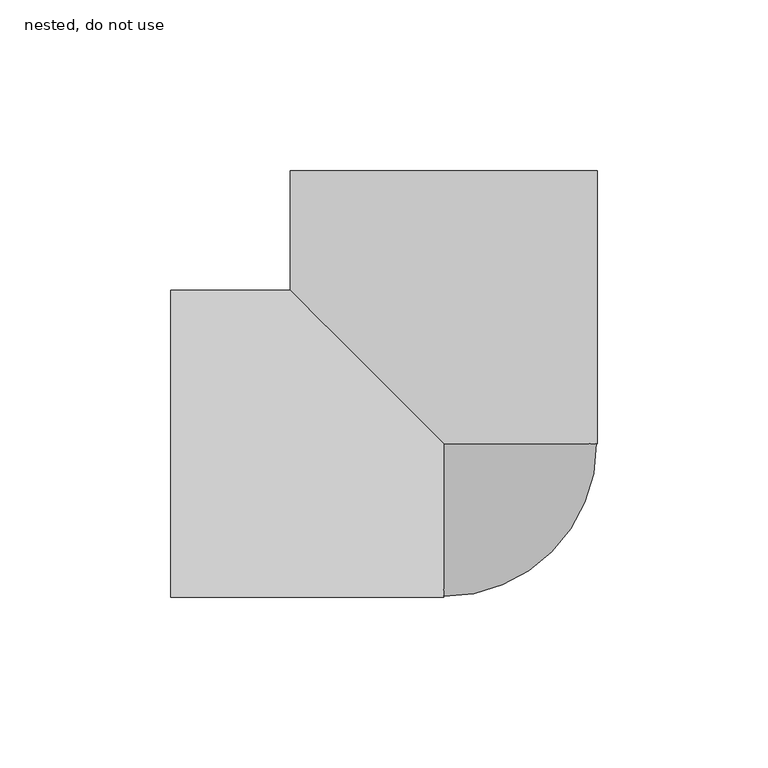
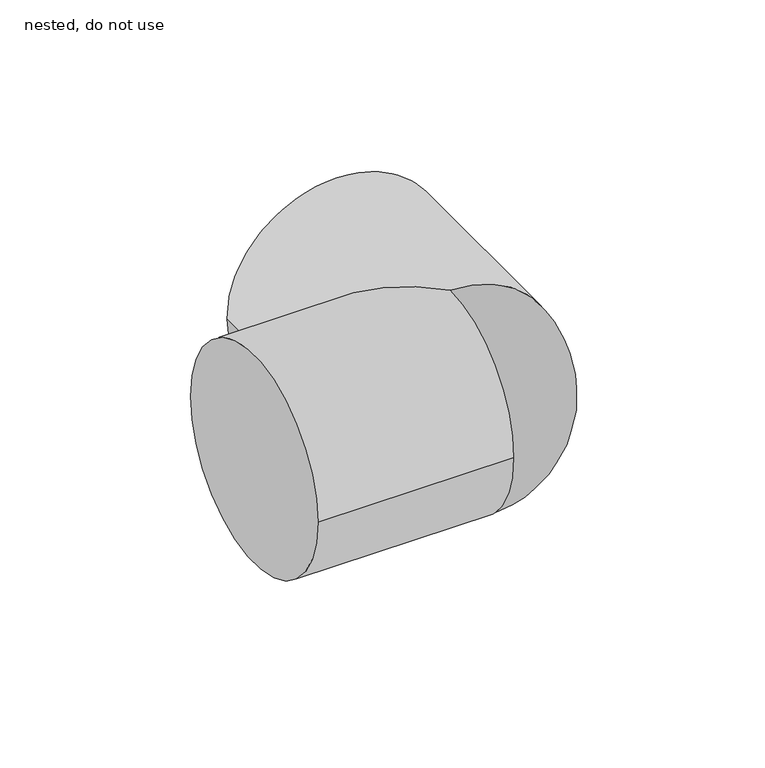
"""IFC4 building model written with IfcOpenShell, lengths in millimetres: pipe fitting geometry, ZZZ_do no use_PIF_HDPE elbow for bend assembly -SH_Akatherm : nested, do not use."""

from ifc_helpers import new_model, si_unit, point, frame, origin, place, context, project, spatial, circle_curve, ellipse_curve, trimmed, source, transform, mapped, element, save
from ifc_brep_helpers import plane_surface, cylinder_surface, revolved_surface, advanced_brep


def nested_do_not_use_7641d64b(model_context):
    return source(origin(), model_context, "Body", "AdvancedBrep", [
        advanced_brep(
        [(-80.0, -45.0, 0.0), (-80.0, 45.0, 0.0), (-45.0, 45.0, 0.0), (0.0, 0.0, -45.0), (0.0, -45.0, 0.0), (0.0, 0.0, 45.0), (45.0, 80.0, 0.0), (-45.0, 80.0, 0.0), (45.0, 0.0, 0.0)],
        [
            (0, 1, circle_curve(frame((-80.0, 0.0, 0.0), z_axis=(-1.0, 0.0, 0.0), x_axis=(0.0, 1.0, 0.0)), 45.0)),
            (1, 0, circle_curve(frame((-80.0, 0.0, 0.0), z_axis=(-1.0, 0.0, 0.0), x_axis=(0.0, 1.0, 0.0)), 45.0)),
            (1, 2),
            (2, 3, ellipse_curve(frame((0.0, 0.0, 0.0), z_axis=(-0.7071067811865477, -0.7071067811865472, 0.0), x_axis=(0.7071067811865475, -0.7071067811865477, 0.0)), 63.6396103, 45.0)),
            (3, 4, circle_curve(frame((0.0, 0.0, 0.0), z_axis=(-1.0, 0.0, 0.0), x_axis=(0.0, 1.0, 0.0)), 45.0)),
            (4, 0),
            (4, 5, circle_curve(frame((0.0, 0.0, 0.0), z_axis=(-1.0, 0.0, 0.0), x_axis=(0.0, 1.0, 0.0)), 45.0)),
            (5, 2, ellipse_curve(frame((0.0, 0.0, 0.0), z_axis=(-0.7071067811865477, -0.7071067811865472, 0.0), x_axis=(0.7071067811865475, -0.7071067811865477, 0.0)), 63.6396103, 45.0)),
            (6, 7, circle_curve(frame((0.0, 80.0, 0.0), z_axis=(0.0, 1.0, 0.0), x_axis=(-1.0, 0.0, 0.0)), 45.0)),
            (7, 6, circle_curve(frame((0.0, 80.0, 0.0), z_axis=(0.0, 1.0, 0.0), x_axis=(-1.0, 0.0, 0.0)), 45.0)),
            (7, 2),
            (5, 8, circle_curve(frame((0.0, 0.0, 0.0), z_axis=(0.0, 1.0, 0.0), x_axis=(-1.0, 0.0, 0.0)), 45.0)),
            (8, 6),
            (8, 3, circle_curve(frame((0.0, 0.0, 0.0), z_axis=(0.0, 1.0, 0.0), x_axis=(-1.0, 0.0, 0.0)), 45.0)),
        ],
        [
            plane_surface(frame((-80.0, 45.0, 0.0), z_axis=(-1.0, 0.0, 0.0), x_axis=(0.0, 0.0, -1.0))),
            cylinder_surface(frame((-80.0, 0.0, 0.0), z_axis=(1.0, 0.0, 0.0), x_axis=(0.0, 1.0, 0.0)), 45.0),
            plane_surface(frame((0.0, 80.0, 0.0), z_axis=(0.0, 1.0, 0.0), x_axis=(0.0, 0.0, 1.0))),
            cylinder_surface(frame((0.0, 0.0, 0.0), z_axis=(0.0, -1.0, 0.0), x_axis=(-1.0, 0.0, 0.0)), 45.0),
            revolved_surface(trimmed(ellipse_curve(frame((0.0, 0.0, 0.0), z_axis=(-1.0, 0.0, 0.0), x_axis=(0.0, 1.0, 0.0)), 45.0, 45.0), [point((0.0, 0.0, -45.0))], [point((0.0, 0.0, 45.0))], True, "CARTESIAN"), (0.0, 0.0, 125.0), (0.0, 0.0, 1.0)),
        ],
        [
            (0, [[1, 2]]),
            (1, [[-2, 3, 4, 5, 6]]),
            (1, [[-1, -6, 7, 8, -3]]),
            (2, [[9, 10]]),
            (3, [[-10, 11, -8, 12, 13]]),
            (3, [[-9, -13, 14, -4, -11]]),
            (4, [[-12, -7, -5, -14]]),
        ],
    ),
    ])


if __name__ == "__main__":
    model = new_model("IFC4")
    model_context = context("Model", 3, world=origin())
    ifc_project = project(units=[si_unit("LENGTHUNIT", "METRE", prefix="MILLI")], contexts=[model_context])
    site = spatial("IfcSite", under=ifc_project)
    building = spatial("IfcBuilding", under=site)
    placement = place(None, origin())
    nested_do_not_use_shape = nested_do_not_use_7641d64b(model_context)
    element("IfcPipeFitting", 1, ObjectType="ZZZ_do no use_PIF_HDPE elbow for bend assembly -SH_Akatherm : nested, do not use", at=placement, inside=building, context=model_context, shape_type="MappedRepresentation", body=[
        mapped(nested_do_not_use_shape, transform((0.0, 0.0, 0.0), x_axis=(1.0, 0.0, 0.0), y_axis=(0.0, 1.0, 0.0), z_axis=(0.0, 0.0, 1.0))),
    ])
    save(model, "model.ifc")
